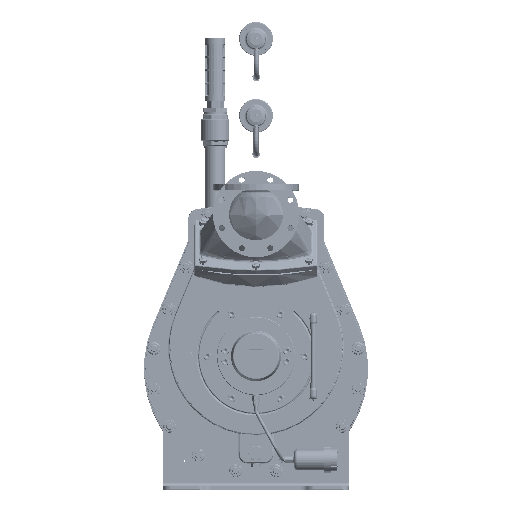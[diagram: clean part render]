
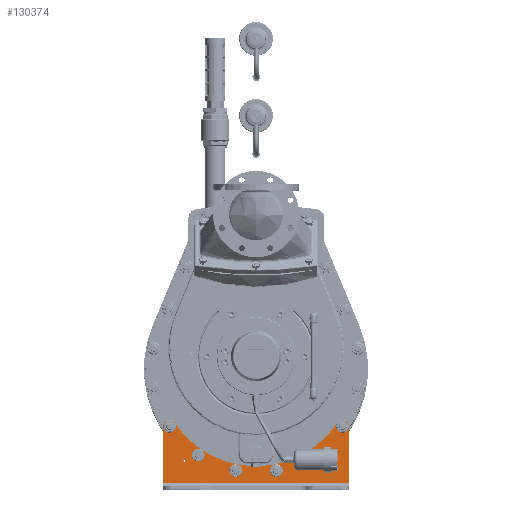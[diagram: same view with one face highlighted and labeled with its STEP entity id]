
A CAD part, top view. The second image highlights one B-rep face of the part: STEP entity #130374.
In plain terms, the highlighted planar face has unit normal (0, 0, 1) as drawn and (1, 0, 0) by its records, which use the part's own axes.
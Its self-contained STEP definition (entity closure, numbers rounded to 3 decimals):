
#16071=FACE_BOUND('',#27381,.T.);
#16072=FACE_BOUND('',#27382,.T.);
#16073=FACE_BOUND('',#27383,.T.);
#16074=FACE_BOUND('',#27384,.T.);
#16075=FACE_BOUND('',#27385,.T.);
#16076=FACE_BOUND('',#27386,.T.);
#16077=FACE_BOUND('',#27387,.T.);
#16078=FACE_BOUND('',#27388,.T.);
#16983=PLANE('',#139760);
#19645=FACE_OUTER_BOUND('',#27380,.T.);
#27380=EDGE_LOOP('',(#88935,#88936,#88937,#88938,#88939,#88940,#88941,#88942,
#88943,#88944));
#27381=EDGE_LOOP('',(#88945));
#27382=EDGE_LOOP('',(#88946));
#27383=EDGE_LOOP('',(#88947));
#27384=EDGE_LOOP('',(#88948));
#27385=EDGE_LOOP('',(#88949));
#27386=EDGE_LOOP('',(#88950));
#27387=EDGE_LOOP('',(#88951));
#27388=EDGE_LOOP('',(#88952));
#36026=LINE('',#180800,#43851);
#36028=LINE('',#180806,#43853);
#36029=LINE('',#180810,#43854);
#36030=LINE('',#180818,#43855);
#36031=LINE('',#180821,#43856);
#43851=VECTOR('',#150834,10.);
#43853=VECTOR('',#150840,10.);
#43854=VECTOR('',#150843,10.);
#43855=VECTOR('',#150850,10.);
#43856=VECTOR('',#150853,10.);
#51678=CIRCLE('',#139761,15.);
#51679=CIRCLE('',#139762,15.);
#51680=CIRCLE('',#139763,231.);
#51681=CIRCLE('',#139764,15.);
#51682=CIRCLE('',#139765,15.);
#51683=CIRCLE('',#139766,2.067);
#51684=CIRCLE('',#139767,2.067);
#51685=CIRCLE('',#139768,9.);
#51686=CIRCLE('',#139769,9.);
#51687=CIRCLE('',#139770,9.);
#51688=CIRCLE('',#139771,9.);
#51689=CIRCLE('',#139772,9.);
#51690=CIRCLE('',#139773,9.);
#56503=VERTEX_POINT('',#180797);
#56504=VERTEX_POINT('',#180799);
#56506=VERTEX_POINT('',#180805);
#56507=VERTEX_POINT('',#180807);
#56508=VERTEX_POINT('',#180809);
#56509=VERTEX_POINT('',#180811);
#56510=VERTEX_POINT('',#180813);
#56511=VERTEX_POINT('',#180815);
#56512=VERTEX_POINT('',#180817);
#56513=VERTEX_POINT('',#180819);
#56514=VERTEX_POINT('',#180822);
#56515=VERTEX_POINT('',#180824);
#56516=VERTEX_POINT('',#180826);
#56517=VERTEX_POINT('',#180828);
#56518=VERTEX_POINT('',#180830);
#56519=VERTEX_POINT('',#180832);
#56520=VERTEX_POINT('',#180834);
#56521=VERTEX_POINT('',#180836);
#69171=EDGE_CURVE('',#56503,#56504,#36026,.T.);
#69174=EDGE_CURVE('',#56506,#56503,#36028,.T.);
#69175=EDGE_CURVE('',#56507,#56506,#51678,.T.);
#69176=EDGE_CURVE('',#56508,#56507,#36029,.T.);
#69177=EDGE_CURVE('',#56509,#56508,#51679,.T.);
#69178=EDGE_CURVE('',#56509,#56510,#51680,.T.);
#69179=EDGE_CURVE('',#56511,#56510,#51681,.T.);
#69180=EDGE_CURVE('',#56512,#56511,#36030,.T.);
#69181=EDGE_CURVE('',#56513,#56512,#51682,.T.);
#69182=EDGE_CURVE('',#56504,#56513,#36031,.T.);
#69183=EDGE_CURVE('',#56514,#56514,#51683,.T.);
#69184=EDGE_CURVE('',#56515,#56515,#51684,.T.);
#69185=EDGE_CURVE('',#56516,#56516,#51685,.T.);
#69186=EDGE_CURVE('',#56517,#56517,#51686,.T.);
#69187=EDGE_CURVE('',#56518,#56518,#51687,.T.);
#69188=EDGE_CURVE('',#56519,#56519,#51688,.T.);
#69189=EDGE_CURVE('',#56520,#56520,#51689,.T.);
#69190=EDGE_CURVE('',#56521,#56521,#51690,.T.);
#88935=ORIENTED_EDGE('',*,*,#69171,.F.);
#88936=ORIENTED_EDGE('',*,*,#69174,.F.);
#88937=ORIENTED_EDGE('',*,*,#69175,.F.);
#88938=ORIENTED_EDGE('',*,*,#69176,.F.);
#88939=ORIENTED_EDGE('',*,*,#69177,.F.);
#88940=ORIENTED_EDGE('',*,*,#69178,.T.);
#88941=ORIENTED_EDGE('',*,*,#69179,.F.);
#88942=ORIENTED_EDGE('',*,*,#69180,.F.);
#88943=ORIENTED_EDGE('',*,*,#69181,.F.);
#88944=ORIENTED_EDGE('',*,*,#69182,.F.);
#88945=ORIENTED_EDGE('',*,*,#69183,.T.);
#88946=ORIENTED_EDGE('',*,*,#69184,.T.);
#88947=ORIENTED_EDGE('',*,*,#69185,.T.);
#88948=ORIENTED_EDGE('',*,*,#69186,.T.);
#88949=ORIENTED_EDGE('',*,*,#69187,.T.);
#88950=ORIENTED_EDGE('',*,*,#69188,.T.);
#88951=ORIENTED_EDGE('',*,*,#69189,.T.);
#88952=ORIENTED_EDGE('',*,*,#69190,.T.);
#130374=ADVANCED_FACE('',(#19645,#16071,#16072,#16073,#16074,#16075,#16076,
#16077,#16078),#16983,.T.);
#139760=AXIS2_PLACEMENT_3D('',#180804,#150838,#150839);
#139761=AXIS2_PLACEMENT_3D('',#180808,#150841,#150842);
#139762=AXIS2_PLACEMENT_3D('',#180812,#150844,#150845);
#139763=AXIS2_PLACEMENT_3D('',#180814,#150846,#150847);
#139764=AXIS2_PLACEMENT_3D('',#180816,#150848,#150849);
#139765=AXIS2_PLACEMENT_3D('',#180820,#150851,#150852);
#139766=AXIS2_PLACEMENT_3D('',#180823,#150854,#150855);
#139767=AXIS2_PLACEMENT_3D('',#180825,#150856,#150857);
#139768=AXIS2_PLACEMENT_3D('',#180827,#150858,#150859);
#139769=AXIS2_PLACEMENT_3D('',#180829,#150860,#150861);
#139770=AXIS2_PLACEMENT_3D('',#180831,#150862,#150863);
#139771=AXIS2_PLACEMENT_3D('',#180833,#150864,#150865);
#139772=AXIS2_PLACEMENT_3D('',#180835,#150866,#150867);
#139773=AXIS2_PLACEMENT_3D('',#180837,#150868,#150869);
#150834=DIRECTION('',(0.,0.,1.));
#150838=DIRECTION('center_axis',(1.,0.,0.));
#150839=DIRECTION('ref_axis',(0.,0.,-1.));
#150840=DIRECTION('',(0.,-1.,0.));
#150841=DIRECTION('center_axis',(-1.,0.,0.));
#150842=DIRECTION('ref_axis',(0.,0.707,-0.707));
#150843=DIRECTION('',(0.,0.,-1.));
#150844=DIRECTION('center_axis',(-1.,0.,0.));
#150845=DIRECTION('ref_axis',(0.,0.881,0.473));
#150846=DIRECTION('center_axis',(-1.,0.,0.));
#150847=DIRECTION('ref_axis',(0.,0.,-1.));
#150848=DIRECTION('center_axis',(-1.,0.,0.));
#150849=DIRECTION('ref_axis',(0.,0.881,-0.473));
#150850=DIRECTION('',(0.,0.,-1.));
#150851=DIRECTION('center_axis',(-1.,0.,0.));
#150852=DIRECTION('ref_axis',(0.,0.707,0.707));
#150853=DIRECTION('',(0.,1.,0.));
#150854=DIRECTION('center_axis',(-1.,0.,0.));
#150855=DIRECTION('ref_axis',(0.,0.,
-1.));
#150856=DIRECTION('center_axis',(-1.,0.,0.));
#150857=DIRECTION('ref_axis',(0.,0.,
-1.));
#150858=DIRECTION('center_axis',(-1.,0.,0.));
#150859=DIRECTION('ref_axis',(0.,0.,-1.));
#150860=DIRECTION('center_axis',(-1.,0.,0.));
#150861=DIRECTION('ref_axis',(0.,0.,-1.));
#150862=DIRECTION('center_axis',(-1.,0.,0.));
#150863=DIRECTION('ref_axis',(0.,0.,-1.));
#150864=DIRECTION('center_axis',(-1.,0.,0.));
#150865=DIRECTION('ref_axis',(0.,0.,-1.));
#150866=DIRECTION('center_axis',(-1.,0.,0.));
#150867=DIRECTION('ref_axis',(0.,0.,-1.));
#150868=DIRECTION('center_axis',(-1.,0.,0.));
#150869=DIRECTION('ref_axis',(0.,0.,-1.));
#180797=CARTESIAN_POINT('',(8.,16.,-220.));
#180799=CARTESIAN_POINT('',(8.,16.,220.));
#180800=CARTESIAN_POINT('',(8.,16.,0.));
#180804=CARTESIAN_POINT('Origin',(8.,58.,0.));
#180805=CARTESIAN_POINT('',(8.,150.,-220.));
#180806=CARTESIAN_POINT('',(8.,0.,-220.));
#180807=CARTESIAN_POINT('',(8.,165.,-205.));
#180808=CARTESIAN_POINT('Origin',(8.,150.,-205.));
#180809=CARTESIAN_POINT('',(8.,165.,-204.988));
#180810=CARTESIAN_POINT('',(8.,165.,-220.));
#180811=CARTESIAN_POINT('',(8.,158.293,-192.489));
#180812=CARTESIAN_POINT('Origin',(8.,150.,-204.988));
#180813=CARTESIAN_POINT('',(8.,158.293,192.489));
#180814=CARTESIAN_POINT('Origin',(8.,286.,0.));
#180815=CARTESIAN_POINT('',(8.,165.,204.988));
#180816=CARTESIAN_POINT('Origin',(8.,150.,204.988));
#180817=CARTESIAN_POINT('',(8.,165.,205.));
#180818=CARTESIAN_POINT('',(8.,165.,-220.));
#180819=CARTESIAN_POINT('',(8.,150.,220.));
#180820=CARTESIAN_POINT('Origin',(8.,150.,205.));
#180821=CARTESIAN_POINT('',(8.,165.,220.));
#180822=CARTESIAN_POINT('',(8.,68.,-167.933));
#180823=CARTESIAN_POINT('Origin',(8.,68.,-170.));
#180824=CARTESIAN_POINT('',(8.,68.,172.067));
#180825=CARTESIAN_POINT('Origin',(8.,68.,170.));
#180826=CARTESIAN_POINT('',(8.,149.33,213.542));
#180827=CARTESIAN_POINT('Origin',(8.,149.33,204.542));
#180828=CARTESIAN_POINT('',(8.,44.727,56.992));
#180829=CARTESIAN_POINT('Origin',(8.,44.727,47.992));
#180830=CARTESIAN_POINT('',(8.,81.458,-127.67));
#180831=CARTESIAN_POINT('Origin',(8.,81.458,-136.67));
#180832=CARTESIAN_POINT('',(8.,149.33,-195.542));
#180833=CARTESIAN_POINT('Origin',(8.,149.33,-204.542));
#180834=CARTESIAN_POINT('',(8.,44.727,-38.992));
#180835=CARTESIAN_POINT('Origin',(8.,44.727,-47.992));
#180836=CARTESIAN_POINT('',(8.,81.458,145.67));
#180837=CARTESIAN_POINT('Origin',(8.,81.458,136.67));
